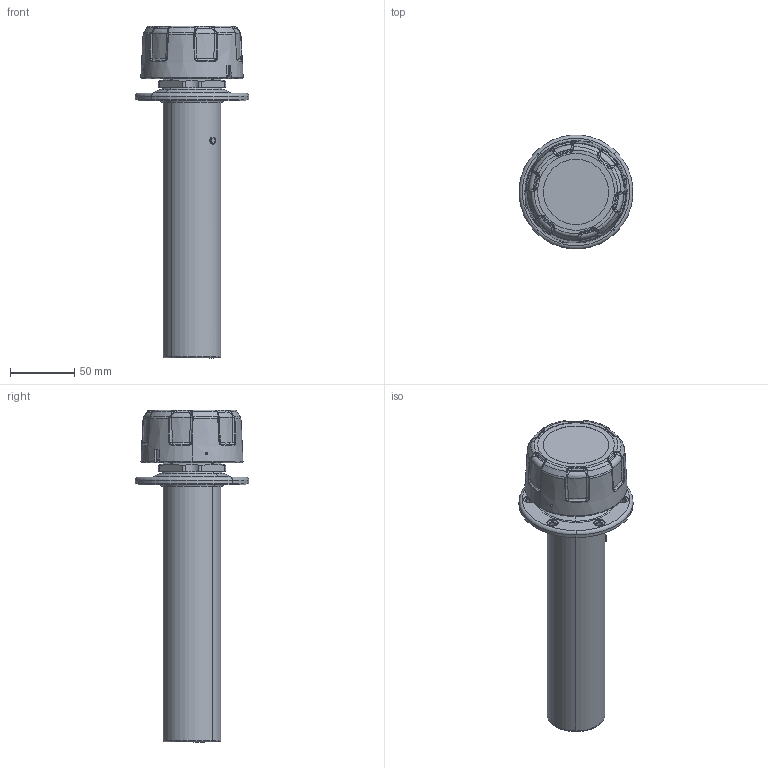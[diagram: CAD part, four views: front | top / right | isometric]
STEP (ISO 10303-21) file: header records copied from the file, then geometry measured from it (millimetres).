
FILE_DESCRIPTION((''),'2;1');
FILE_NAME('30960001_388213','2017-09-26T',('f.kollmann'),(''),'PRO/ENGINEER BY PARAMETRIC TECHNOLOGY CORPORATION, 2015110','PRO/ENGINEER BY PARAMETRIC TECHNOLOGY CORPORATION, 2015110','');
FILE_SCHEMA(('AUTOMOTIVE_DESIGN { 1 0 10303 214 1 1 1 1 }'));
Length unit declared in the file: millimetre
Products named in the file (1): 30960001_388213
Bounding box: 88.66 x 88.66 x 259.12 mm (x, y, z)
Volume: 556083.7 mm3; surface area: 67204.8 mm2
Topology: 1 solids, 3 shells, 602 faces, 1542 edges, 966 vertices
Faces by surface type: bspline 190, cylinder 144, plane 134, cone 74, torus 48, sphere 12
Entity records: 31470 total; most frequent: CARTESIAN_POINT 12831, ORIENTED_EDGE 3084, DIRECTION 2149, PRESENTATION_STYLE_ASSIGNMENT 1582, STYLED_ITEM 1543, CURVE_STYLE 1542, EDGE_CURVE 1542, VERTEX_POINT 966
